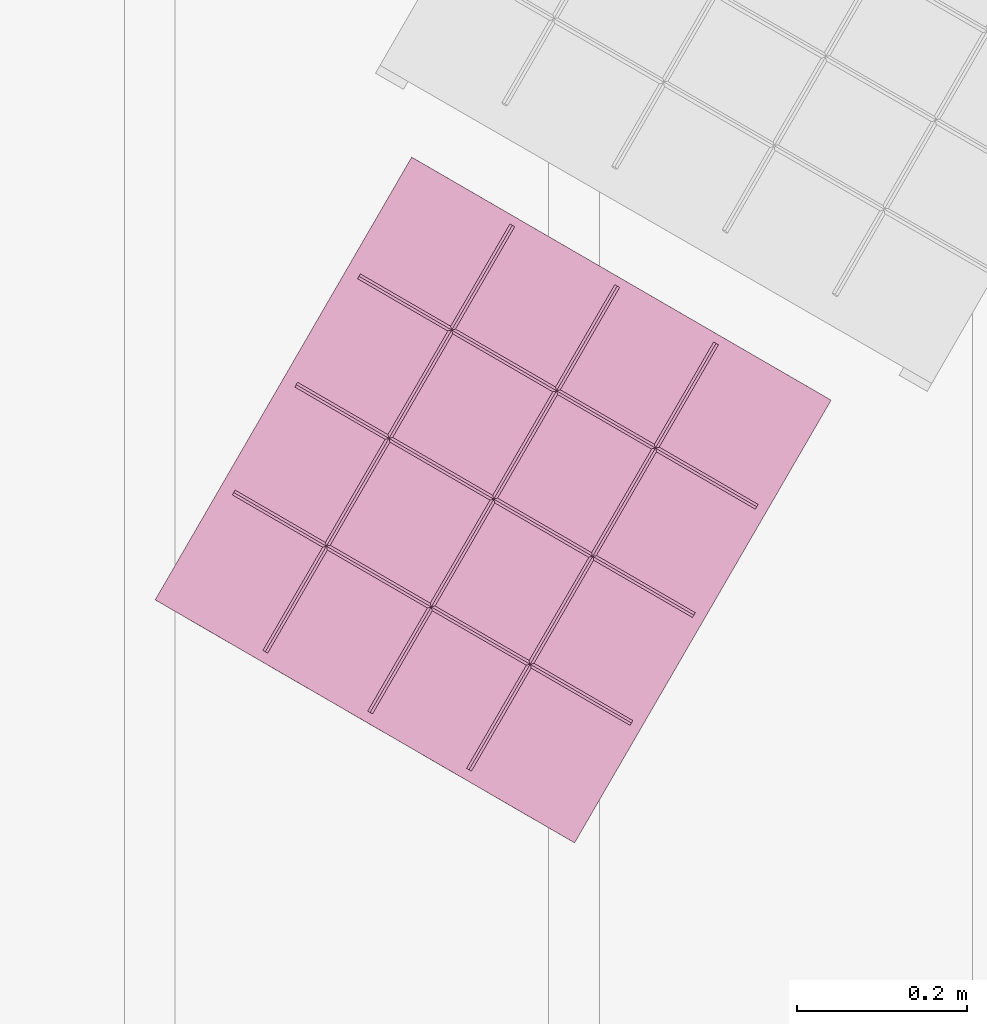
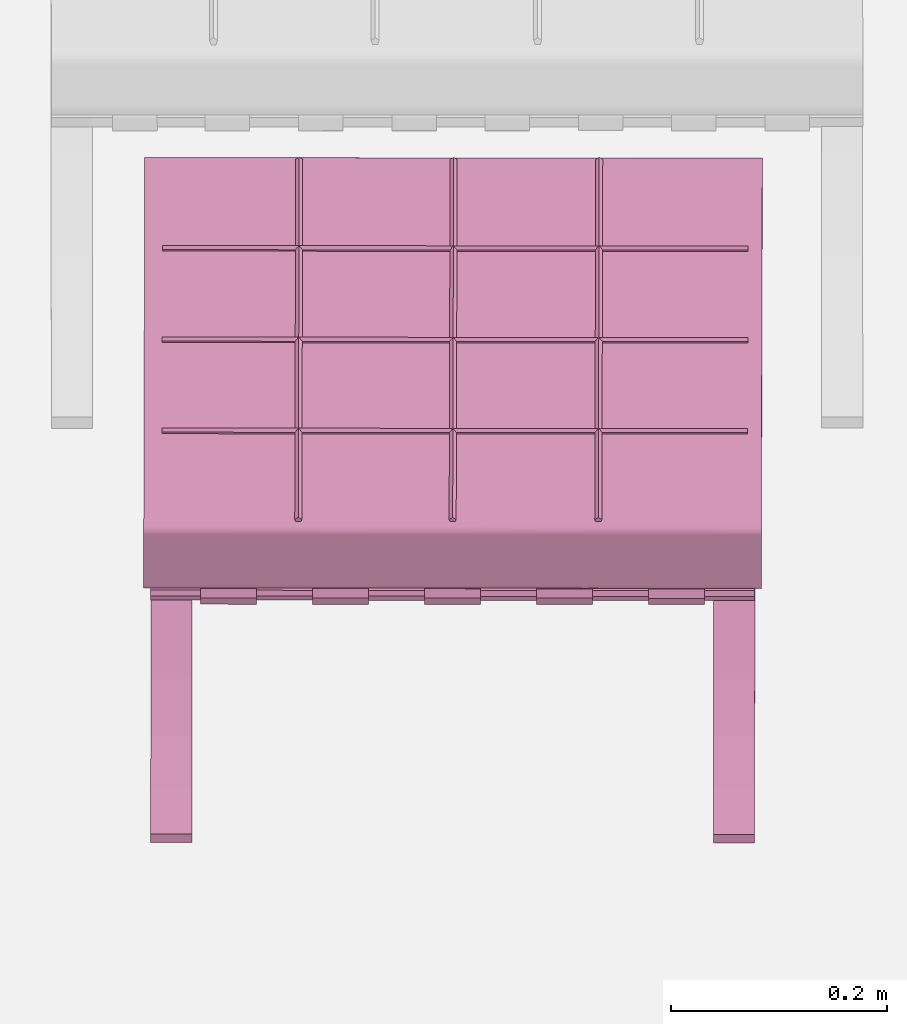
# One storey, part 26 of 28: 1 furniture element.
"""IFC4X3_ADD2 building model written with IfcOpenShell, lengths in metres."""

from ifc_helpers import new_model, si_unit, direction, frame, origin_with_axes, place, context, subcontext, project, spatial, polyline, outline, extrude, source, transform, mapped, material, element, save


model = new_model("IFC4X3_ADD2")

# Units and contexts
model_context = context("Model", 3, precision=1e-05, world=origin_with_axes(), true_north=direction((0.0, 1.0)))
body_context = subcontext(model_context, "Body", "Model", "MODEL_VIEW")
ifc_project = project(units=[si_unit("LENGTHUNIT", "METRE"), si_unit("AREAUNIT", "SQUARE_METRE"), si_unit("VOLUMEUNIT", "CUBIC_METRE"), si_unit("PLANEANGLEUNIT", "RADIAN"), si_unit("TIMEUNIT", "SECOND"), si_unit("MASSUNIT", "GRAM")], contexts=[model_context])

# Site, building, storey, space
site_placement = place(None, origin_with_axes())
site = spatial("IfcSite", under=ifc_project, at=site_placement, Name="Site", CompositionType="ELEMENT")
building_placement = place(site_placement, origin_with_axes())
building = spatial("IfcBuilding", under=site, at=building_placement, Name="Default Building")
storey_placement = place(building_placement, frame((0.0, 0.0, -0.08), z_axis=(0.0, 0.0, 1.0), x_axis=(1.0, 0.0, 0.0)))
storey = spatial("IfcBuildingStorey", under=building, at=storey_placement, Name="Gruendung", Elevation=-0.08)
space_placement = place(storey_placement, frame((12.575001, 16.1, 0.08), z_axis=(0.0, 0.0, 1.0), x_axis=(1.0, 0.0, 0.0)))
space = spatial("IfcSpace", under=storey, at=space_placement, Name="Space", CompositionType="ELEMENT", PredefinedType="SPACE")

# Furniture
ifc_material = material(Name="Default")
shared_shape = source(origin_with_axes(), body_context, "Body", "SweptSolid", [
    extrude(outline(polyline([(0.1341034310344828, -0.2683658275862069), (0.1346364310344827, -0.2947018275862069), (0.1298994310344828, -0.2973868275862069), (0.1238344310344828, -0.2953288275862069), (0.1187434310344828, -0.2351898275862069), (0.1088404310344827, -0.1898708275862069), (0.09218343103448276, -0.1479198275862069), (0.07613543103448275, -0.1167658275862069), (0.01021043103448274, -0.02475882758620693), (0.003066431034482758, -0.01999682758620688), (-0.005267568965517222, -0.01999682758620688), (-0.01241156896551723, -0.02594982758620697), (-0.08392356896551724, -0.1260798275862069), (-0.1132055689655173, -0.1759128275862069), (-0.1330615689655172, -0.232541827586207), (-0.1415945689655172, -0.2939698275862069), (-0.1503245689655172, -0.2946088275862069), (-0.1503245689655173, -0.2684398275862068), (-0.1415945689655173, -0.2184338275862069), (-0.1280755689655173, -0.1812268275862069), (-0.1117105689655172, -0.1482238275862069), (-0.08993256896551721, -0.1138818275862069), (-0.02737456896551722, -0.02774782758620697), (-0.01717356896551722, -0.008486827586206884), (-0.01717356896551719, 0.00937217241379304), (-0.02689156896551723, 0.02759117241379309), (-0.08944856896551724, 0.1137261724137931), (-0.1112275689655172, 0.1480681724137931), (-0.1275925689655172, 0.1810701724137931), (-0.1419785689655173, 0.220181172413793), (-0.1503615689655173, 0.2698211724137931), (-0.1498285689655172, 0.2944531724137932), (-0.1409985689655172, 0.2938321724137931), (-0.1325775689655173, 0.2323851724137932), (-0.1127215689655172, 0.1757561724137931), (-0.08343956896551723, 0.1259231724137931), (-0.01192756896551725, 0.02579317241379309), (-0.004784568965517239, 0.01984017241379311), (0.003550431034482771, 0.01984017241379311), (0.01069443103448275, 0.02460217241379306), (0.07661843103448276, 0.1166091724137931), (0.09266743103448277, 0.1477641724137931), (0.1093234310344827, 0.1897151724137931), (0.1192264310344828, 0.2350331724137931), (0.1243184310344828, 0.295172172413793), (0.1303824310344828, 0.2972311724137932), (0.1351204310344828, 0.2945461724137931), (0.1345874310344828, 0.2682091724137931), (0.1245104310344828, 0.2022531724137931), (0.1141604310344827, 0.168817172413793), (0.09211543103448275, 0.1227611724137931), (0.02241443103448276, 0.02244417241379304), (0.01735443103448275, 0.008380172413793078), (0.01735443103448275, -0.009478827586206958), (0.02193043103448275, -0.02260082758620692), (0.09163143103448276, -0.122916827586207), (0.1136764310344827, -0.1689728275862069), (0.1236364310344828, -0.2014368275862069), (0.1341034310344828, -0.2683658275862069)])), frame((-0.2794000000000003, -0.0009711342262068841, 0.1489365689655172), z_axis=(1.0, 0.0, 0.0), x_axis=(0.0, 0.0, 1.0)), (0.0, 0.0, 1.0), 0.03810000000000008),
    extrude(outline(polyline([(0.005157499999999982, 0.007882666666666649), (0.005690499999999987, -0.01845333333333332), (0.0009525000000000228, -0.02113833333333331), (-0.005111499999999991, -0.01908033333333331), (-0.008999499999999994, 0.02536966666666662), (0.002310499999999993, 0.0254196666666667), (0.005157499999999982, 0.007882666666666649)])), frame((-0.2413, 0.2752773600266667, 0.2783665), z_axis=(1.0, 0.0, 0.0), x_axis=(0.0, 0.0, 1.0)), (0.0, 0.0, 1.0), 0.4826000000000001),
    extrude(outline(polyline([(0.1341034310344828, -0.2683658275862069), (0.1346364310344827, -0.2947018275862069), (0.1298994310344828, -0.2973868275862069), (0.1238344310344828, -0.2953288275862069), (0.1187434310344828, -0.2351898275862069), (0.1088404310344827, -0.1898708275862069), (0.09218343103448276, -0.1479198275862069), (0.07613543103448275, -0.1167658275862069), (0.01021043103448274, -0.02475882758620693), (0.003066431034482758, -0.01999682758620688), (-0.005267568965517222, -0.01999682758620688), (-0.01241156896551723, -0.02594982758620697), (-0.08392356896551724, -0.1260798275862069), (-0.1132055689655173, -0.1759128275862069), (-0.1330615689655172, -0.232541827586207), (-0.1415945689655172, -0.2939698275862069), (-0.1503245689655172, -0.2946088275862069), (-0.1503245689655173, -0.2684398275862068), (-0.1415945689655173, -0.2184338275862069), (-0.1280755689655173, -0.1812268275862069), (-0.1117105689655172, -0.1482238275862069), (-0.08993256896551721, -0.1138818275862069), (-0.02737456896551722, -0.02774782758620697), (-0.01717356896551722, -0.008486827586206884), (-0.01717356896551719, 0.00937217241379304), (-0.02689156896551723, 0.02759117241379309), (-0.08944856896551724, 0.1137261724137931), (-0.1112275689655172, 0.1480681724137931), (-0.1275925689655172, 0.1810701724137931), (-0.1419785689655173, 0.220181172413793), (-0.1503615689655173, 0.2698211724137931), (-0.1498285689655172, 0.2944531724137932), (-0.1409985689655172, 0.2938321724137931), (-0.1325775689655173, 0.2323851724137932), (-0.1127215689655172, 0.1757561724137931), (-0.08343956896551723, 0.1259231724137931), (-0.01192756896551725, 0.02579317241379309), (-0.004784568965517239, 0.01984017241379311), (0.003550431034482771, 0.01984017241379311), (0.01069443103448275, 0.02460217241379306), (0.07661843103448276, 0.1166091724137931), (0.09266743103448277, 0.1477641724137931), (0.1093234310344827, 0.1897151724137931), (0.1192264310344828, 0.2350331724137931), (0.1243184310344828, 0.295172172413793), (0.1303824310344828, 0.2972311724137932), (0.1351204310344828, 0.2945461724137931), (0.1345874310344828, 0.2682091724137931), (0.1245104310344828, 0.2022531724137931), (0.1141604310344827, 0.168817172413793), (0.09211543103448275, 0.1227611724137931), (0.02241443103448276, 0.02244417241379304), (0.01735443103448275, 0.008380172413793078), (0.01735443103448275, -0.009478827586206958), (0.02193043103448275, -0.02260082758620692), (0.09163143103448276, -0.122916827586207), (0.1136764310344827, -0.1689728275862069), (0.1236364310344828, -0.2014368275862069), (0.1341034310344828, -0.2683658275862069)])), frame((0.2413000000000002, -0.0009711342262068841, 0.1489365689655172), z_axis=(1.0, 0.0, 0.0), x_axis=(0.0, 0.0, 1.0)), (0.0, 0.0, 1.0), 0.03810000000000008),
    extrude(outline(polyline([(-0.005111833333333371, 0.01908016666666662), (0.0009531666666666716, 0.0211391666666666), (0.005690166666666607, 0.01845316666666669), (0.005157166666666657, -0.007882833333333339), (0.002311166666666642, -0.02541983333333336), (-0.008999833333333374, -0.02536983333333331), (-0.005111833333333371, 0.01908016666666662)])), frame((-0.2413, -0.2770632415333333, 0.2783654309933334), z_axis=(1.0, 0.0, 0.0), x_axis=(0.0, 0.0, 1.0)), (0.0, 0.0, 1.0), 0.4826000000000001),
    extrude(outline(polyline([(-0.009623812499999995, 0.2511418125), (-0.005561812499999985, 0.2976568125), (0.003820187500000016, 0.3008378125), (0.01140418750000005, 0.2965468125), (0.01140418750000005, -0.2963891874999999), (0.002629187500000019, -0.3014621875), (-0.005716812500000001, -0.2947651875), (-0.01103181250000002, -0.2530121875), (-0.007322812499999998, -0.2524601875), (-0.003335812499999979, -0.2932391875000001), (0.002419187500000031, -0.2985291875), (0.008229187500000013, -0.2945601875), (0.008229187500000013, 0.2946868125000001), (0.003491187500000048, 0.2973718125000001), (-0.002572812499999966, 0.2953128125), (-0.006460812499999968, 0.2508628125), (-0.009623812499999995, 0.2511418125)])), frame((-0.2333873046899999, -0.0008291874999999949, 0.2758278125), z_axis=(1.0, 0.0, 0.0), x_axis=(0.0, 0.0, 1.0)), (0.0, 0.0, 1.0), 0.05181699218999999),
    extrude(outline(polyline([(-0.009623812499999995, 0.2511418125), (-0.005561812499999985, 0.2976568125), (0.003820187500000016, 0.3008378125), (0.01140418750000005, 0.2965468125), (0.01140418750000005, -0.2963891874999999), (0.002629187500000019, -0.3014621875), (-0.005716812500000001, -0.2947651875), (-0.01103181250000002, -0.2530121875), (-0.007322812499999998, -0.2524601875), (-0.003335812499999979, -0.2932391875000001), (0.002419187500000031, -0.2985291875), (0.008229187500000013, -0.2945601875), (0.008229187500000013, 0.2946868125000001), (0.003491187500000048, 0.2973718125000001), (-0.002572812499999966, 0.2953128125), (-0.006460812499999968, 0.2508628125), (-0.009623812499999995, 0.2511418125)])), frame((-0.02611933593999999, -0.0008291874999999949, 0.2758278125), z_axis=(1.0, 0.0, 0.0), x_axis=(0.0, 0.0, 1.0)), (0.0, 0.0, 1.0), 0.05181699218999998),
    extrude(outline(polyline([(-0.009623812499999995, 0.2511418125), (-0.005561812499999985, 0.2976568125), (0.003820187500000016, 0.3008378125), (0.01140418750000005, 0.2965468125), (0.01140418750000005, -0.2963891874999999), (0.002629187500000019, -0.3014621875), (-0.005716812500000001, -0.2947651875), (-0.01103181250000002, -0.2530121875), (-0.007322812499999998, -0.2524601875), (-0.003335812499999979, -0.2932391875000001), (0.002419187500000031, -0.2985291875), (0.008229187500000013, -0.2945601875), (0.008229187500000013, 0.2946868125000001), (0.003491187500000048, 0.2973718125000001), (-0.002572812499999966, 0.2953128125), (-0.006460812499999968, 0.2508628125), (-0.009623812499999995, 0.2511418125)])), frame((0.07751464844, -0.0008291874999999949, 0.2758278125), z_axis=(1.0, 0.0, 0.0), x_axis=(0.0, 0.0, 1.0)), (0.0, 0.0, 1.0), 0.05181699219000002),
    extrude(outline(polyline([(-0.009623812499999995, 0.2511418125), (-0.005561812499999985, 0.2976568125), (0.003820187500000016, 0.3008378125), (0.01140418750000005, 0.2965468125), (0.01140418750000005, -0.2963891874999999), (0.002629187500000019, -0.3014621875), (-0.005716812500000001, -0.2947651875), (-0.01103181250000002, -0.2530121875), (-0.007322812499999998, -0.2524601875), (-0.003335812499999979, -0.2932391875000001), (0.002419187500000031, -0.2985291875), (0.008229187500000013, -0.2945601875), (0.008229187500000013, 0.2946868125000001), (0.003491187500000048, 0.2973718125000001), (-0.002572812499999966, 0.2953128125), (-0.006460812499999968, 0.2508628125), (-0.009623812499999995, 0.2511418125)])), frame((0.18114863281, -0.0008291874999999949, 0.2758278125), z_axis=(1.0, 0.0, 0.0), x_axis=(0.0, 0.0, 1.0)), (0.0, 0.0, 1.0), 0.05181699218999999),
    extrude(outline(polyline([(-0.009623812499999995, 0.2511418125), (-0.005561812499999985, 0.2976568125), (0.003820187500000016, 0.3008378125), (0.01140418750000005, 0.2965468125), (0.01140418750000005, -0.2963891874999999), (0.002629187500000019, -0.3014621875), (-0.005716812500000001, -0.2947651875), (-0.01103181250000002, -0.2530121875), (-0.007322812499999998, -0.2524601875), (-0.003335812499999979, -0.2932391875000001), (0.002419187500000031, -0.2985291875), (0.008229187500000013, -0.2945601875), (0.008229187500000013, 0.2946868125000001), (0.003491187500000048, 0.2973718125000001), (-0.002572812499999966, 0.2953128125), (-0.006460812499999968, 0.2508628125), (-0.009623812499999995, 0.2511418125)])), frame((-0.12975332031, -0.0008291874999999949, 0.2758278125), z_axis=(1.0, 0.0, 0.0), x_axis=(0.0, 0.0, 1.0)), (0.0, 0.0, 1.0), 0.05181699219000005),
    extrude(outline(polyline([(0.03491740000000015, 0.2954566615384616), (0.03492340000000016, 0.2952976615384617), (0.03492540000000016, 0.2951386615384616), (0.03492540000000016, -0.2951383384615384), (0.03492340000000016, -0.2952973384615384), (0.03491740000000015, -0.2954573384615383), (0.03490740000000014, -0.2956153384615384), (0.03489440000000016, -0.2957743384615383), (0.03487740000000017, -0.2959323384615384), (0.03485640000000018, -0.2960903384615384), (0.03483140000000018, -0.2962473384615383), (0.03480340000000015, -0.2964043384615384), (0.03477040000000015, -0.2965593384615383), (0.03473440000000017, -0.2967143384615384), (0.03469540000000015, -0.2968683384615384), (0.03465140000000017, -0.2970213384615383), (0.03460440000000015, -0.2971733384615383), (0.03455340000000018, -0.2973243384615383), (0.03449940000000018, -0.2974733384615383), (0.03444140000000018, -0.2976213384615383), (0.0343804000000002, -0.2977673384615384), (0.03431540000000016, -0.2979123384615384), (0.03424740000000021, -0.2980553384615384), (0.03417540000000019, -0.2981963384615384), (0.0341004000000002, -0.2983353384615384), (0.0340214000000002, -0.2984733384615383), (0.03393940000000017, -0.2986093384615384), (0.03385440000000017, -0.2987423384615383), (0.0337664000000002, -0.2988733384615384), (0.03367540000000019, -0.2990023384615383), (0.03358140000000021, -0.2991293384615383), (0.03348340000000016, -0.2992533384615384), (0.03338340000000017, -0.2993753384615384), (0.03328040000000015, -0.2994943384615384), (0.03317440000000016, -0.2996113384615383), (0.03306540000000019, -0.2997253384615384), (0.03295340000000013, -0.2998363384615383), (0.03283940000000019, -0.2999443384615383), (0.03272240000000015, -0.3000503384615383), (0.03260340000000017, -0.3001523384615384), (0.03248140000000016, -0.3002523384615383), (0.03235740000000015, -0.3003483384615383), (0.03223140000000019, -0.3004413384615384), (0.03210240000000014, -0.3005323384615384), (0.03197240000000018, -0.3006183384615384), (0.03183940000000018, -0.3007023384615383), (0.03170440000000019, -0.3007823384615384), (0.03156840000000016, -0.3008593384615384), (0.03143040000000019, -0.3009323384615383), (0.03129040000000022, -0.3010023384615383), (0.03114840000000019, -0.3010683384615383), (0.03100540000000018, -0.3011313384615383), (0.03086040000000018, -0.3011903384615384), (0.0307144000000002, -0.3012463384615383), (0.03056640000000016, -0.3012973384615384), (0.03041840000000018, -0.3013453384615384), (0.03026840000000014, -0.3013903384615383), (0.03011840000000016, -0.3014303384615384), (0.02996640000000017, -0.3014673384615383), (0.02981340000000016, -0.3015003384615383), (0.0296604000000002, -0.3015293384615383), (0.02950640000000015, -0.3015553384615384), (0.02935240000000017, -0.3015763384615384), (0.02919740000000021, -0.3015933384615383), (0.02904240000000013, -0.3016073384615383), (0.0288864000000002, -0.3016173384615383), (0.02873040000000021, -0.3016233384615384), (0.02857540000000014, -0.3016253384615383), (-0.02857459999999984, -0.3016253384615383), (-0.02873059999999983, -0.3016233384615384), (-0.02888659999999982, -0.3016173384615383), (-0.02904259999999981, -0.3016073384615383), (-0.02919759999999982, -0.3015933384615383), (-0.02935259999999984, -0.3015763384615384), (-0.02950659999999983, -0.3015553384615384), (-0.02966059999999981, -0.3015293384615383), (-0.02981359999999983, -0.3015003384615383), (-0.02996659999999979, -0.3014673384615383), (-0.0301175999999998, -0.3014303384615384), (-0.03026859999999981, -0.3013903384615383), (-0.0304185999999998, -0.3013453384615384), (-0.03056659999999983, -0.3012973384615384), (-0.03071459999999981, -0.3012463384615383), (-0.03086059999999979, -0.3011903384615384), (-0.03100459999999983, -0.3011313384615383), (-0.0311485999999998, -0.3010683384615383), (-0.03128959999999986, -0.3010023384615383), (-0.03142959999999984, -0.3009323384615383), (-0.03156859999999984, -0.3008593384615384), (-0.03170459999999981, -0.3007823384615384), (-0.0318395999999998, -0.3007023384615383), (-0.03197259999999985, -0.3006183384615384), (-0.03210259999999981, -0.3005323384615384), (-0.03223159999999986, -0.3004413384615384), (-0.03235759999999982, -0.3003483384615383), (-0.03248159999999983, -0.3002523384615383), (-0.03260359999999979, -0.3001523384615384), (-0.03272259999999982, -0.3000503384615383), (-0.0328395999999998, -0.2999443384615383), (-0.03295359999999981, -0.2998363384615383), (-0.03306559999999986, -0.2997253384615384), (-0.0331735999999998, -0.2996113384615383), (-0.03327959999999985, -0.2994943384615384), (-0.03338359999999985, -0.2993753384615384), (-0.03348359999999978, -0.2992533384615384), (-0.03358059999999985, -0.2991293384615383), (-0.03367559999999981, -0.2990023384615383), (-0.03376659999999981, -0.2988733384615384), (-0.03385459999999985, -0.2987423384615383), (-0.03393959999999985, -0.2986093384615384), (-0.03402159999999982, -0.2984733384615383), (-0.03409959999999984, -0.2983353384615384), (-0.03417559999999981, -0.2981963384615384), (-0.03424659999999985, -0.2980553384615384), (-0.03431559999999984, -0.2979123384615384), (-0.03438059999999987, -0.2977673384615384), (-0.03444159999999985, -0.2976213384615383), (-0.0344995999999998, -0.2974733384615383), (-0.03455359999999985, -0.2973243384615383), (-0.03460459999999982, -0.2971733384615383), (-0.03465159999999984, -0.2970213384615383), (-0.0346945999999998, -0.2968683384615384), (-0.03473459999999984, -0.2967143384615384), (-0.03477059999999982, -0.2965593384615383), (-0.03480259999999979, -0.2964043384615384), (-0.0348315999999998, -0.2962473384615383), (-0.03485659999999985, -0.2960903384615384), (-0.03487759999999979, -0.2959323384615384), (-0.03489459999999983, -0.2957743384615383), (-0.03490759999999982, -0.2956153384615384), (-0.03491759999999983, -0.2954573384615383), (-0.03492359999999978, -0.2952973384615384), (-0.03492459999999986, -0.2951383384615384), (-0.03492459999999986, 0.2951386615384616), (-0.03492359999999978, 0.2952976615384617), (-0.03491759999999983, 0.2954566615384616), (-0.03490759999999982, 0.2956156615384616), (-0.03489459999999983, 0.2957746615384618), (-0.03487759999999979, 0.2959326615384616), (-0.03485659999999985, 0.2960906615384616), (-0.0348315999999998, 0.2962476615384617), (-0.03480259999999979, 0.2964036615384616), (-0.03477059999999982, 0.2965596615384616), (-0.03473459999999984, 0.2967146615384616), (-0.0346945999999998, 0.2968686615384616), (-0.03465159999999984, 0.2970216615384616), (-0.03460459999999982, 0.2971736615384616), (-0.03455359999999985, 0.2973236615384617), (-0.0344995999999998, 0.2974726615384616), (-0.03444159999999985, 0.2976206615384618), (-0.03438059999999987, 0.2977666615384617), (-0.03431559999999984, 0.2979116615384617), (-0.03424659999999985, 0.2980546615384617), (-0.03417559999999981, 0.2981966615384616), (-0.03409959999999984, 0.2983356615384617), (-0.03402159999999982, 0.2984736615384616), (-0.03393959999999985, 0.2986086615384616), (-0.03385459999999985, 0.2987426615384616), (-0.03376659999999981, 0.2988736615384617), (-0.03367559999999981, 0.2990026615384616), (-0.03358059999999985, 0.2991296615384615), (-0.03348359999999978, 0.2992536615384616), (-0.03338359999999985, 0.2993756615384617), (-0.03327959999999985, 0.2994946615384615), (-0.0331735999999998, 0.2996116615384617), (-0.03306559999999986, 0.2997246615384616), (-0.03295359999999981, 0.2998366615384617), (-0.0328395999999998, 0.2999446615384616), (-0.03272259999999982, 0.3000496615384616), (-0.03260359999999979, 0.3001526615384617), (-0.03248159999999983, 0.3002516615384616), (-0.03235759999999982, 0.3003486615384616), (-0.03223159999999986, 0.3004416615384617), (-0.03210259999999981, 0.3005316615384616), (-0.03197259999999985, 0.3006186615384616), (-0.0318395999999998, 0.3007016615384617), (-0.03170459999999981, 0.3007826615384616), (-0.03156859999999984, 0.3008586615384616), (-0.03142959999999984, 0.3009326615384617), (-0.03128959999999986, 0.3010026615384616), (-0.0311485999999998, 0.3010686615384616), (-0.03100459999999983, 0.3011316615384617), (-0.03086059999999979, 0.3011906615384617), (-0.03071459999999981, 0.3012456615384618), (-0.03056659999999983, 0.3012976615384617), (-0.0304185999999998, 0.3013456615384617), (-0.03026859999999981, 0.3013896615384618), (-0.0301175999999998, 0.3014306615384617), (-0.02996659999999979, 0.3014676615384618), (-0.02981359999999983, 0.3015006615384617), (-0.02966059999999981, 0.3015296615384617), (-0.02950659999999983, 0.3015546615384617), (-0.02935259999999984, 0.3015766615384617), (-0.02919759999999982, 0.3015936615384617), (-0.02904259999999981, 0.3016076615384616), (-0.02888659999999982, 0.3016166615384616), (-0.02873059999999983, 0.3016226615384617), (-0.02857459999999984, 0.3016246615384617), (0.02857540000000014, 0.3016246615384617), (0.02873040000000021, 0.3016226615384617), (0.0288864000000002, 0.3016166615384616), (0.02904240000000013, 0.3016076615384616), (0.02919740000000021, 0.3015936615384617), (0.02935240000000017, 0.3015766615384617), (0.02950640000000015, 0.3015546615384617), (0.0296604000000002, 0.3015296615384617), (0.02981340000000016, 0.3015006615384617), (0.02996640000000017, 0.3014676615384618), (0.03011840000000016, 0.3014306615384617), (0.03026840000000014, 0.3013896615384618), (0.03041840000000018, 0.3013456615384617), (0.03056640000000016, 0.3012976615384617), (0.0307144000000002, 0.3012456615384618), (0.03086040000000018, 0.3011906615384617), (0.03100540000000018, 0.3011316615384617), (0.03114840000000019, 0.3010686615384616), (0.03129040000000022, 0.3010026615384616), (0.03143040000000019, 0.3009326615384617), (0.03156840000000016, 0.3008586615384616), (0.03170440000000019, 0.3007826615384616), (0.03183940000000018, 0.3007016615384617), (0.03197240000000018, 0.3006186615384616), (0.03210240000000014, 0.3005316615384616), (0.03223140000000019, 0.3004416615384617), (0.03235740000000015, 0.3003486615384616), (0.03248140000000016, 0.3002516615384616), (0.03260340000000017, 0.3001526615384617), (0.03272240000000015, 0.3000496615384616), (0.03283940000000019, 0.2999446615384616), (0.03295340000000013, 0.2998366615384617), (0.03306540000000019, 0.2997246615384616), (0.03317440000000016, 0.2996116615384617), (0.03328040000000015, 0.2994946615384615), (0.03338340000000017, 0.2993756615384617), (0.03348340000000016, 0.2992536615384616), (0.03358140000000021, 0.2991296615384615), (0.03367540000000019, 0.2990026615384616), (0.0337664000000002, 0.2988736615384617), (0.03385440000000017, 0.2987426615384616), (0.03393940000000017, 0.2986086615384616), (0.0340214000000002, 0.2984736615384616), (0.0341004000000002, 0.2983356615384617), (0.03417540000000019, 0.2981966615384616), (0.03424740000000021, 0.2980546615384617), (0.03431540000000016, 0.2979116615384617), (0.0343804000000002, 0.2977666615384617), (0.03444140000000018, 0.2976206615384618), (0.03449940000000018, 0.2974726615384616), (0.03455340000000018, 0.2973236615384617), (0.03460440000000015, 0.2971736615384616), (0.03465140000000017, 0.2970216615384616), (0.03469540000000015, 0.2968686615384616), (0.03473440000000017, 0.2967146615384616), (0.03477040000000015, 0.2965596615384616), (0.03480340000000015, 0.2964036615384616), (0.03483140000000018, 0.2962476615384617), (0.03485640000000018, 0.2960906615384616), (0.03487740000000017, 0.2959326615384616), (0.03489440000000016, 0.2957746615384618), (0.03490740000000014, 0.2956156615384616), (0.03491740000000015, 0.2954566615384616)])), frame((-0.2857499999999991, 4.33548984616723e-05, 0.3226965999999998), z_axis=(1.0, 0.0, 0.0), x_axis=(0.0, 0.0, 1.0)), (0.0, 0.0, 1.0), 0.5714999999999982),
    extrude(outline(polyline([(0.001060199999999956, -0.00326860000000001), (-0.002777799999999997, -0.002021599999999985), (-0.002777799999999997, 0.002021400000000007), (0.001060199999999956, 0.003268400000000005), (0.003435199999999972, 4.000000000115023e-07), (0.001060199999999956, -0.00326860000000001)])), frame((-0.26910605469, -0.14564701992, 0.3587748), z_axis=(1.0, 0.0, 0.0), x_axis=(0.0, 0.0, 1.0)), (0.0, 0.0, 1.0), 0.54195761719),
    extrude(outline(polyline([(-0.002021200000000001, 0.002777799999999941), (0.00202179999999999, 0.002777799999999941), (0.003267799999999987, -0.001060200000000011), (-2.000000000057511e-07, -0.003435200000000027), (-0.003268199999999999, -0.001060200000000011), (-0.002021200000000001, 0.002777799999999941)])), frame((-0.1427688, -0.28942109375, 0.3587747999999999), z_axis=(0.0, 1.0, 0.0), x_axis=(1.0, 0.0, 0.0)), (0.0, 0.0, 1.0), 0.581025),
    extrude(outline(polyline([(-0.0020206, 0.002777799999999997), (0.0020214, 0.002777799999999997), (0.0032674, -0.001060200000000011), (-6.000000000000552e-07, -0.003435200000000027), (-0.0032676, -0.001060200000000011), (-0.0020206, 0.002777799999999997)])), frame((0.0001056, -0.28942109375, 0.3587068), z_axis=(0.0, 1.0, 0.0), x_axis=(1.0, 0.0, 0.0)), (0.0, 0.0, 1.0), 0.581025),
    extrude(outline(polyline([(-0.002021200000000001, 0.002778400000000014), (0.002021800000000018, 0.002778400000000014), (0.003267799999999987, -0.001060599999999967), (-2.000000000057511e-07, -0.003435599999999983), (-0.003268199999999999, -0.001060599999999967), (-0.002021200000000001, 0.002778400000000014)])), frame((0.1348442, -0.28942109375, 0.3589054), z_axis=(0.0, 1.0, 0.0), x_axis=(1.0, 0.0, 0.0)), (0.0, 0.0, 1.0), 0.581025),
    extrude(outline(polyline([(0.001060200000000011, -0.003267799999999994), (-0.002777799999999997, -0.002021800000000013), (-0.002777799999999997, 0.002021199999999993), (0.001060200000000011, 0.003268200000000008), (0.003435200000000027, 2.000000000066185e-07), (0.001060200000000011, -0.003267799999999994)])), frame((-0.26910605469, 0.001295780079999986, 0.3587068), z_axis=(1.0, 0.0, 0.0), x_axis=(0.0, 0.0, 1.0)), (0.0, 0.0, 1.0), 0.54195761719),
    extrude(outline(polyline([(0.001060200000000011, -0.003267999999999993), (-0.002777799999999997, -0.002022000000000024), (-0.002777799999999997, 0.002022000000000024), (0.001060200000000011, 0.003267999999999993), (0.003435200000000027, 0.0), (0.001060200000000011, -0.003267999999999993)])), frame((-0.26910605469, 0.14893358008, 0.3587068), z_axis=(1.0, 0.0, 0.0), x_axis=(0.0, 0.0, 1.0)), (0.0, 0.0, 1.0), 0.54195761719),
])
furniture_placement = place(storey_placement, frame((17.90478044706, 17.54879993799, 0.08), z_axis=(0.0, 0.0, 1.0), x_axis=(0.8652621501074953, -0.5013196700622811, 0.0)))
element("IfcFurniture", 1, at=furniture_placement, inside=space, material=ifc_material, Name="IfcFurniture", ObjectType="Stuhl Mies 03 Barcelona", PredefinedType="CHAIR", context=body_context, shape_type="MappedRepresentation", body=[
    mapped(shared_shape, transform((0.0, 0.0, 0.0))),
])

save(model, "model.ifc")
